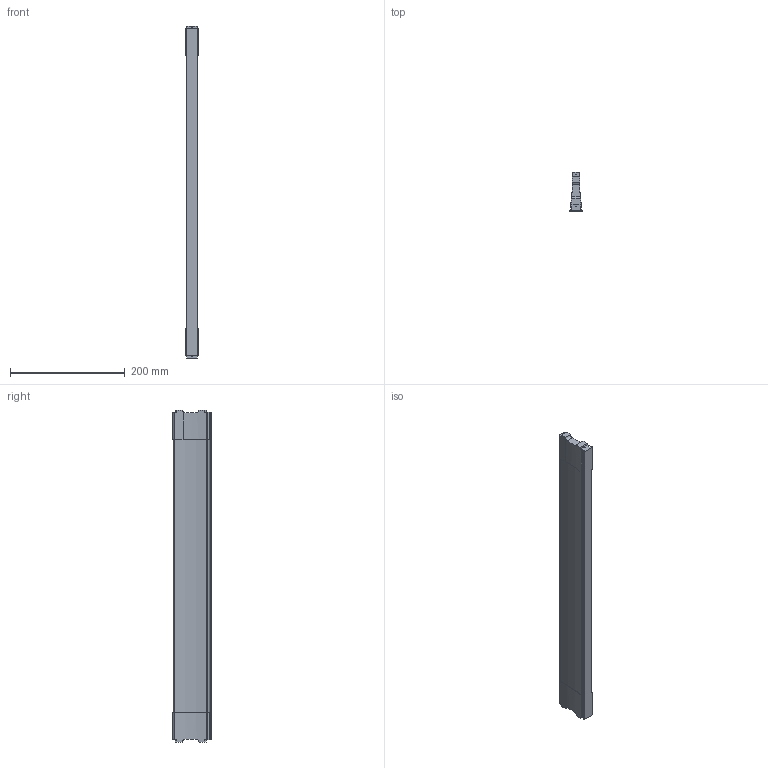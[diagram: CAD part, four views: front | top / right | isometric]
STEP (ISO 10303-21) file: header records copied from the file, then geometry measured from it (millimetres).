
FILE_DESCRIPTION (( 'STEP AP214' ), '1' );
FILE_NAME ('Traverse DWD XP NL600 Mass X568,4.step', '2010-09-21T13:16:43', ( 'grass' ), ( '' ), 'SwSTEP 2.0', 'SolidWorks 2010', '' );
FILE_SCHEMA (( 'AUTOMOTIVE_DESIGN' ));
Length unit declared in the file: millimetre
Products named in the file (1): Traverse DWD XP NL600 Mass X568,4
Bounding box: 21.4 x 67.5 x 577.4 mm (x, y, z)
Volume: 480220.8 mm3; surface area: 100367.4 mm2
Topology: 1 solids, 1 shells, 125 faces, 369 edges, 246 vertices
Faces by surface type: cylinder 68, plane 57
Entity records: 4377 total; most frequent: CARTESIAN_POINT 879, DIRECTION 753, ORIENTED_EDGE 738, EDGE_CURVE 369, AXIS2_PLACEMENT_3D 268, VERTEX_POINT 246, LINE 217, VECTOR 217
